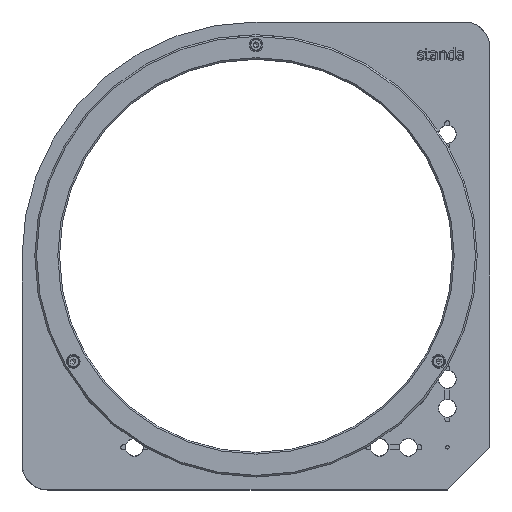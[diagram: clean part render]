
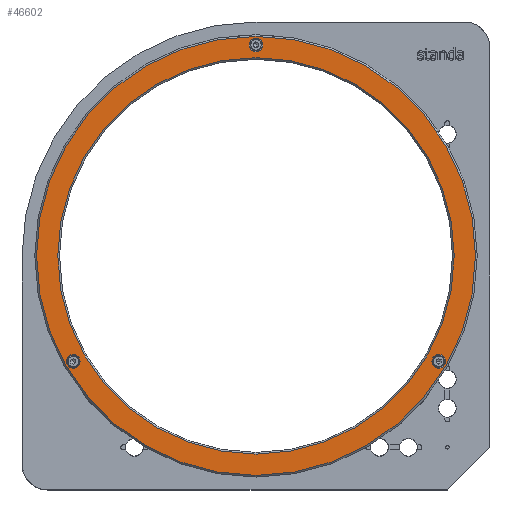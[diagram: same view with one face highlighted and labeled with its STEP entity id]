
A CAD part, top view. The second image highlights one B-rep face of the part: STEP entity #46602.
In plain terms, the highlighted planar face has unit normal (0, 0, 1).
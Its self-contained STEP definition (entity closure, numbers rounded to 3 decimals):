
#6047=CARTESIAN_POINT('',(111.387,-62.,59.));
#6048=VERTEX_POINT('',#6047);
#6057=CARTESIAN_POINT('',(103.387,-62.,59.));
#6058=VERTEX_POINT('',#6057);
#6059=CARTESIAN_POINT('',(107.387,-62.,59.));
#6060=DIRECTION('',(0.0,0.0,-1.0));
#6061=DIRECTION('',(1.0,0.0,0.0));
#6062=AXIS2_PLACEMENT_3D('',#6059,#6060,#6061);
#6063=CIRCLE('',#6062,4.0);
#6064=EDGE_CURVE('',#6058,#6048,#6063,.T.);
#6173=CARTESIAN_POINT('',(4.,124.,59.));
#6174=VERTEX_POINT('',#6173);
#6183=CARTESIAN_POINT('',(-4.,124.,59.));
#6184=VERTEX_POINT('',#6183);
#6185=CARTESIAN_POINT('',(0.,124.,59.));
#6186=DIRECTION('',(0.0,0.0,-1.0));
#6187=DIRECTION('',(1.0,0.0,0.0));
#6188=AXIS2_PLACEMENT_3D('',#6185,#6186,#6187);
#6189=CIRCLE('',#6188,4.0);
#6190=EDGE_CURVE('',#6184,#6174,#6189,.T.);
#6299=CARTESIAN_POINT('',(-103.387,-62.,59.));
#6300=VERTEX_POINT('',#6299);
#6309=CARTESIAN_POINT('',(-111.387,-62.,59.));
#6310=VERTEX_POINT('',#6309);
#6311=CARTESIAN_POINT('',(-107.387,-62.,59.));
#6312=DIRECTION('',(0.0,0.0,-1.0));
#6313=DIRECTION('',(1.0,0.0,0.0));
#6314=AXIS2_PLACEMENT_3D('',#6311,#6312,#6313);
#6315=CIRCLE('',#6314,4.0);
#6316=EDGE_CURVE('',#6310,#6300,#6315,.T.);
#6341=CARTESIAN_POINT('',(129.,0.,59.));
#6342=VERTEX_POINT('',#6341);
#6351=CARTESIAN_POINT('',(-129.,0.,59.));
#6352=VERTEX_POINT('',#6351);
#6353=CARTESIAN_POINT('',(0.,0.,59.));
#6354=DIRECTION('',(0.0,0.0,-1.0));
#6355=DIRECTION('',(1.0,0.0,0.0));
#6356=AXIS2_PLACEMENT_3D('',#6353,#6354,#6355);
#6357=CIRCLE('',#6356,129.0);
#6358=EDGE_CURVE('',#6342,#6352,#6357,.T.);
#6425=CARTESIAN_POINT('',(116.5,0.,59.));
#6426=VERTEX_POINT('',#6425);
#6434=CARTESIAN_POINT('',(-116.5,0.,59.));
#6435=VERTEX_POINT('',#6434);
#6442=CARTESIAN_POINT('',(0.,0.,59.));
#6443=DIRECTION('',(0.0,0.0,1.0));
#6444=DIRECTION('',(1.0,0.0,0.0));
#6445=AXIS2_PLACEMENT_3D('',#6442,#6443,#6444);
#6446=CIRCLE('',#6445,116.5);
#6447=EDGE_CURVE('',#6435,#6426,#6446,.T.);
#46535=CARTESIAN_POINT('',(0.,0.,59.));
#46536=DIRECTION('',(0.0,0.0,1.0));
#46537=DIRECTION('',(1.0,0.0,0.0));
#46538=AXIS2_PLACEMENT_3D('',#46535,#46536,#46537);
#46539=CIRCLE('',#46538,116.5);
#46540=EDGE_CURVE('',#6426,#6435,#46539,.T.);
#46553=CARTESIAN_POINT('',(-115.5,0.,59.));
#46554=DIRECTION('',(0.0,0.0,1.0));
#46555=DIRECTION('',(0.0,-1.0,0.0));
#46556=AXIS2_PLACEMENT_3D('',#46553,#46554,#46555);
#46557=PLANE('',#46556);
#46558=CARTESIAN_POINT('',(0.,0.,59.));
#46559=DIRECTION('',(0.0,0.0,-1.0));
#46560=DIRECTION('',(1.0,0.0,0.0));
#46561=AXIS2_PLACEMENT_3D('',#46558,#46559,#46560);
#46562=CIRCLE('',#46561,129.0);
#46563=EDGE_CURVE('',#6352,#6342,#46562,.T.);
#46564=ORIENTED_EDGE('',*,*,#46563,.F.);
#46565=ORIENTED_EDGE('',*,*,#6358,.F.);
#46566=EDGE_LOOP('',(#46564,#46565));
#46567=FACE_OUTER_BOUND('',#46566,.T.);
#46568=CARTESIAN_POINT('',(-107.387,-62.,59.));
#46569=DIRECTION('',(0.0,0.0,-1.0));
#46570=DIRECTION('',(1.0,0.0,0.0));
#46571=AXIS2_PLACEMENT_3D('',#46568,#46569,#46570);
#46572=CIRCLE('',#46571,4.0);
#46573=EDGE_CURVE('',#6300,#6310,#46572,.T.);
#46574=ORIENTED_EDGE('',*,*,#46573,.T.);
#46575=ORIENTED_EDGE('',*,*,#6316,.T.);
#46576=EDGE_LOOP('',(#46574,#46575));
#46577=FACE_BOUND('',#46576,.T.);
#46578=CARTESIAN_POINT('',(0.,124.,59.));
#46579=DIRECTION('',(0.0,0.0,-1.0));
#46580=DIRECTION('',(1.0,0.0,0.0));
#46581=AXIS2_PLACEMENT_3D('',#46578,#46579,#46580);
#46582=CIRCLE('',#46581,4.0);
#46583=EDGE_CURVE('',#6174,#6184,#46582,.T.);
#46584=ORIENTED_EDGE('',*,*,#46583,.T.);
#46585=ORIENTED_EDGE('',*,*,#6190,.T.);
#46586=EDGE_LOOP('',(#46584,#46585));
#46587=FACE_BOUND('',#46586,.T.);
#46588=CARTESIAN_POINT('',(107.387,-62.,59.));
#46589=DIRECTION('',(0.0,0.0,-1.0));
#46590=DIRECTION('',(1.0,0.0,0.0));
#46591=AXIS2_PLACEMENT_3D('',#46588,#46589,#46590);
#46592=CIRCLE('',#46591,4.0);
#46593=EDGE_CURVE('',#6048,#6058,#46592,.T.);
#46594=ORIENTED_EDGE('',*,*,#46593,.T.);
#46595=ORIENTED_EDGE('',*,*,#6064,.T.);
#46596=EDGE_LOOP('',(#46594,#46595));
#46597=FACE_BOUND('',#46596,.T.);
#46598=ORIENTED_EDGE('',*,*,#6447,.F.);
#46599=ORIENTED_EDGE('',*,*,#46540,.F.);
#46600=EDGE_LOOP('',(#46598,#46599));
#46601=FACE_BOUND('',#46600,.T.);
#46602=ADVANCED_FACE('',(#46567,#46577,#46587,#46597,#46601),#46557,.T.);
